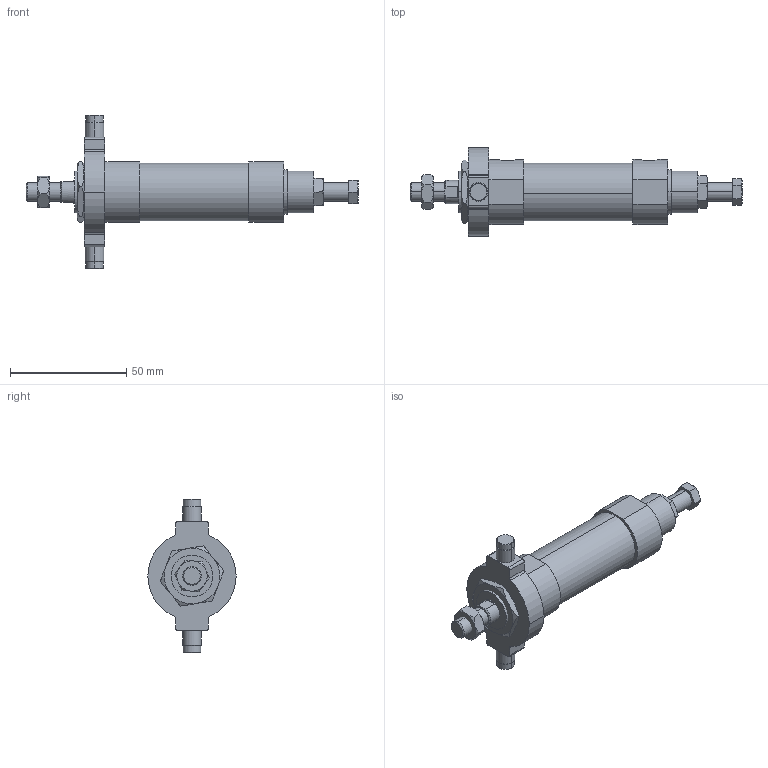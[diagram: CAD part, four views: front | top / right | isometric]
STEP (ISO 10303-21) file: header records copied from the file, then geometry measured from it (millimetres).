
FILE_DESCRIPTION (( 'STEP AP203' ), '1' );
FILE_NAME ('JGA2-20-15-T.STEP', '2016-04-20T05:05:41', ( '' ), ( '' ), 'SwSTEP 2.0', 'SolidWorks 2014', '' );
FILE_SCHEMA (( 'CONFIG_CONTROL_DESIGN' ));
Length unit declared in the file: millimetre
Products named in the file (7): 20-15; J#2-20-T; M18x1.5-3mm; JGLH2-20B; JGA2-20A; M8x1.25-5mm; JGA2-20-15-T
Assembly tree (6 placements, depth 2):
  JGA2-20-15-T
    JGLH2-20B
    20-15
    JGA2-20A
    M8x1.25-5mm
    M18x1.5-3mm
    J#2-20-T
Bounding box: 143 x 38 x 66 mm (x, y, z)
Volume: 60095 mm3; surface area: 18798 mm2
Topology: 6 solids, 6 shells, 160 faces, 353 edges, 218 vertices
Faces by surface type: plane 63, cylinder 49, torus 36, cone 12
Entity records: 5700 total; most frequent: CARTESIAN_POINT 1464, DIRECTION 753, ORIENTED_EDGE 706, EDGE_CURVE 353, AXIS2_PLACEMENT_3D 311, VERTEX_POINT 218, EDGE_LOOP 179, FACE_OUTER_BOUND 160
